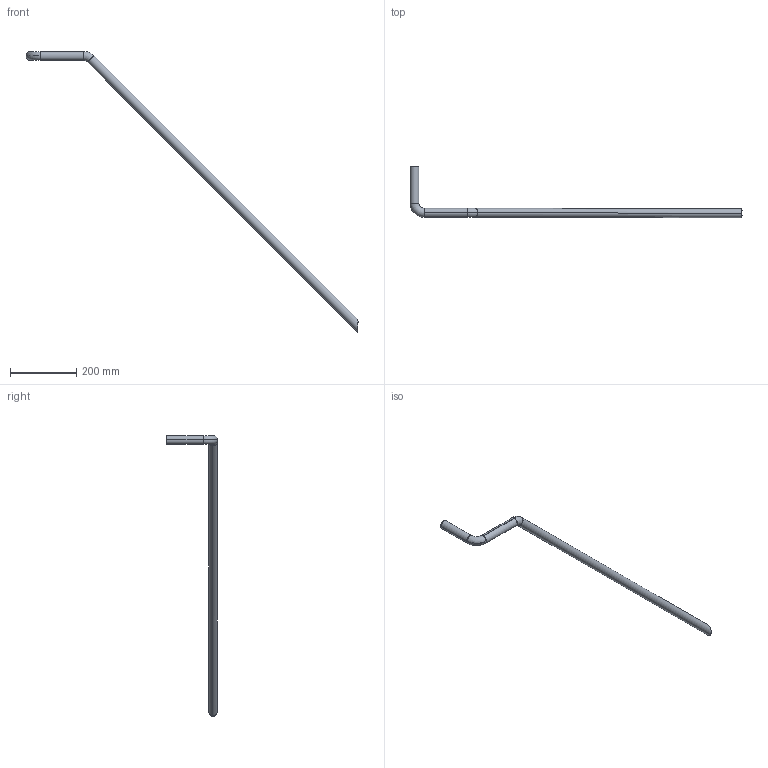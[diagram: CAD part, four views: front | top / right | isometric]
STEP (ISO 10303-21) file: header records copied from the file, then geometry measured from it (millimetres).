
FILE_DESCRIPTION (( 'STEP AP214' ), '1' );
FILE_NAME ('CCJ029-REP.308 - LISSE ESCALIER SUPERIEUR TYPE 2.STEP', '2025-11-12T12:35:17', ( '' ), ( '' ), 'SwSTEP 2.0', 'SolidWorks 2021', '' );
FILE_SCHEMA (( 'AUTOMOTIVE_DESIGN' ));
Length unit declared in the file: millimetre
Products named in the file (1): CCJ029-REP.308 - LISSE ESCALIER SUPERIEUR TYPE 2
Bounding box: 1000.99 x 153.45 x 847.01 mm (x, y, z)
Volume: 257971.2 mm3; surface area: 224742.2 mm2
Topology: 1 solids, 1 shells, 22 faces, 48 edges, 28 vertices
Faces by surface type: cylinder 12, torus 8, plane 2
Entity records: 646 total; most frequent: DIRECTION 122, CARTESIAN_POINT 111, ORIENTED_EDGE 96, AXIS2_PLACEMENT_3D 55, EDGE_CURVE 48, CIRCLE 32, VERTEX_POINT 28, EDGE_LOOP 24
